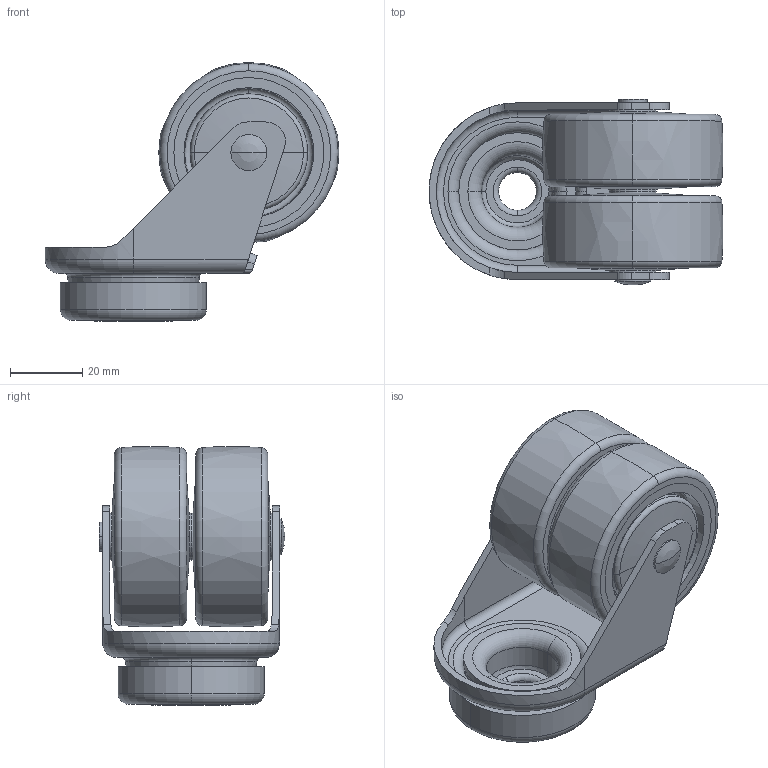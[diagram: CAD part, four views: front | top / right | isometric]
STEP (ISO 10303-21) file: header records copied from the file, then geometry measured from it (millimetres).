
FILE_DESCRIPTION((''),'2;1');
FILE_NAME('2052-50_ASM','2025-05-23T',('new'),(''),'PRO/ENGINEER BY PARAMETRIC TECHNOLOGY CORPORATION, 2015240','PRO/ENGINEER BY PARAMETRIC TECHNOLOGY CORPORATION, 2015240','');
FILE_SCHEMA(('CONFIG_CONTROL_DESIGN'));
Length unit declared in the file: millimetre
Products named in the file (12): 50SUNALEN-ZJ__; 50SUNALEN-6BJ__; 50SUNALEN-BOPAN1__; 50SUNALEN-MAODINGE__; 50SUAN-LEN-XIAO-BUO-PAM11__; BJ4-1__; 50-NEI-XIN_; 50-WAI-QUAN_; 6000_; 50-ZHUAN-SHI-GAI_; 50_ASM; 2052-50_ASM
Assembly tree (13 placements, depth 3):
  2052-50_ASM
    50SUNALEN-ZJ__
    50SUNALEN-6BJ__
    50SUNALEN-BOPAN1__
    50SUNALEN-MAODINGE__
    50SUAN-LEN-XIAO-BUO-PAM11__
    BJ4-1__
    50_ASM  x2
      50-NEI-XIN_
      50-WAI-QUAN_
      6000_
      50-ZHUAN-SHI-GAI_
Bounding box: 81.46 x 51.5 x 71.76 mm (x, y, z)
Volume: 80598.7 mm3; surface area: 66813.5 mm2
Topology: 73 solids, 73 shells, 472 faces, 1095 edges, 570 vertices
Faces by surface type: cylinder 141, sphere 116, plane 79, torus 78, cone 50, revolution 4, bspline 4
Entity records: 8239 total; most frequent: DIRECTION 1593, CARTESIAN_POINT 1507, ORIENTED_EDGE 1118, AXIS2_PLACEMENT_3D 722, EDGE_CURVE 559, CIRCLE 388, VERTEX_POINT 382, EDGE_LOOP 351
